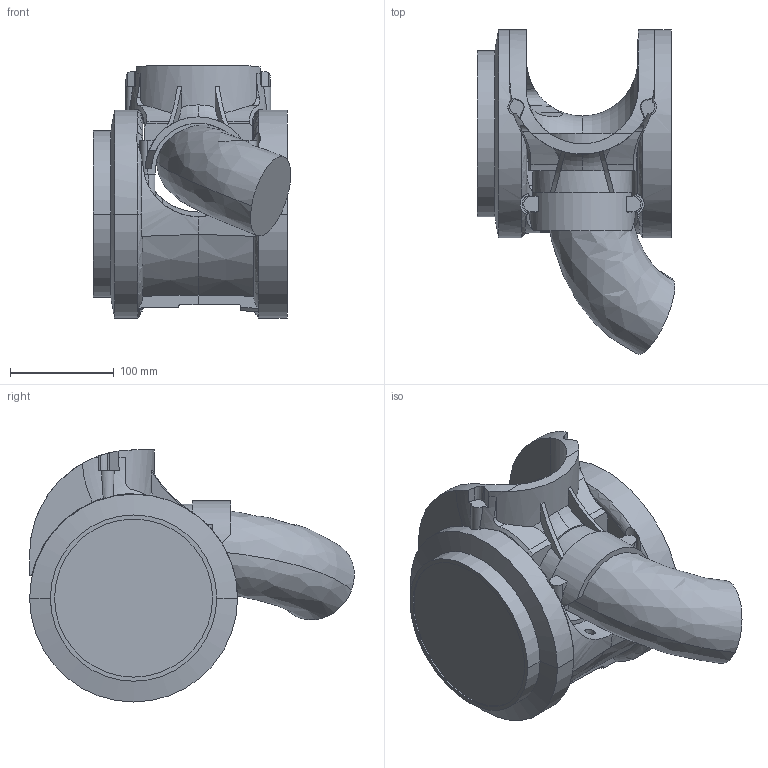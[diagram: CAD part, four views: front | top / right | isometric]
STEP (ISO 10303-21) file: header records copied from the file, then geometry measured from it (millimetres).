
FILE_DESCRIPTION (( 'STEP AP214' ), '1' );
FILE_NAME ('IRB6700-SW6_145-320_IRC5_rev02_LINK06_CAD.STEP', '2022-02-10T16:24:36', ( '' ), ( '' ), 'SwSTEP 2.0', 'SolidWorks 2020', '' );
FILE_SCHEMA (( 'AUTOMOTIVE_DESIGN' ));
Length unit declared in the file: millimetre
Products named in the file (1): IRB6700-SW6_145-320_IRC5_rev02_LINK06_CAD
Bounding box: 190.05 x 312.39 x 242.5 mm (x, y, z)
Volume: 3792069.7 mm3; surface area: 383176.3 mm2
Topology: 1 solids, 3 shells, 399 faces, 1085 edges, 673 vertices
Faces by surface type: cylinder 133, plane 130, cone 98, torus 27, bspline 11
Entity records: 19610 total; most frequent: CARTESIAN_POINT 8560, ORIENTED_EDGE 2086, DIRECTION 1846, EDGE_CURVE 1043, AXIS2_PLACEMENT_3D 716, VERTEX_POINT 673, EDGE_LOOP 428, LINE 414
